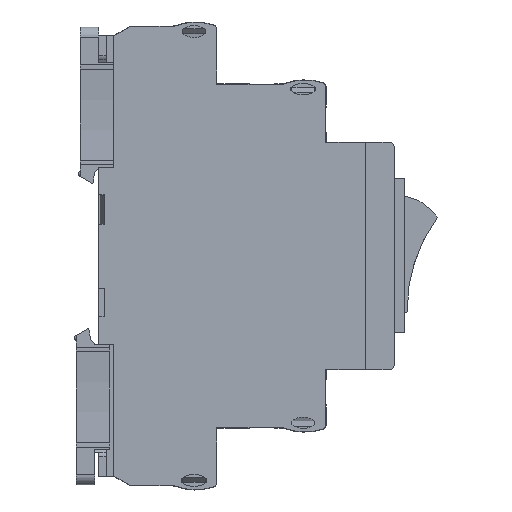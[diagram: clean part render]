
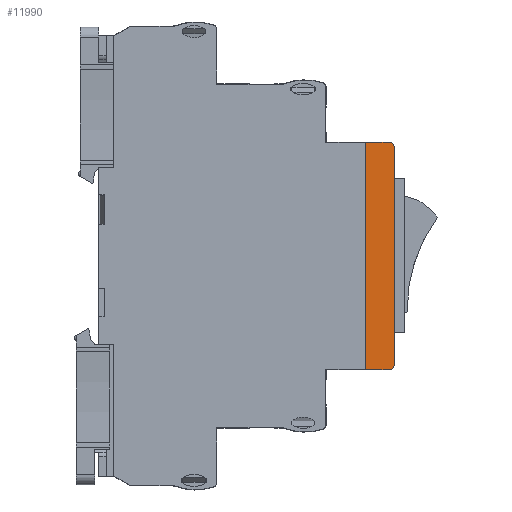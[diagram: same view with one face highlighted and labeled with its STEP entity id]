
A CAD part, front view. The second image highlights one B-rep face of the part: STEP entity #11990.
In plain terms, the highlighted planar face has unit normal (0, -1, 0) as drawn and (-1, 0, 0) by its records, which use the part's own axes.
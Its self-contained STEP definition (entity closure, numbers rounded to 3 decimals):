
#11990=ADVANCED_FACE('',(#79877),#79879,.T.);
#79877=FACE_BOUND('',#79878,.T.);
#79878=EDGE_LOOP('',(#132276,#132277,#132278,#132279,#132280,#132281));
#79879=PLANE('',#79880);
#79880=AXIS2_PLACEMENT_3D('',#79881,#79882,#79883);
#79881=CARTESIAN_POINT('',(-6.5,-22.6,1.5));
#79882=DIRECTION('',(-1.,0.,0.));
#79883=DIRECTION('',(0.,0.,1.));
#132276=ORIENTED_EDGE('',*,*,#179941,.T.);
#132277=ORIENTED_EDGE('',*,*,#179943,.T.);
#132278=ORIENTED_EDGE('',*,*,#179929,.F.);
#132279=ORIENTED_EDGE('',*,*,#179944,.T.);
#132280=ORIENTED_EDGE('',*,*,#179933,.F.);
#132281=ORIENTED_EDGE('',*,*,#179913,.T.);
#179913=EDGE_CURVE('',#205172,#205176,#205178,.T.);
#179929=EDGE_CURVE('',#205202,#205203,#205204,.T.);
#179933=EDGE_CURVE('',#205172,#205210,#205211,.T.);
#179941=EDGE_CURVE('',#205176,#205220,#205222,.T.);
#179943=EDGE_CURVE('',#205220,#205203,#205224,.T.);
#179944=EDGE_CURVE('',#205202,#205210,#205225,.T.);
#205172=VERTEX_POINT('',#248757);
#205176=VERTEX_POINT('',#248765);
#205178=LINE('',#248769,#248770);
#205202=VERTEX_POINT('',#248825);
#205203=VERTEX_POINT('',#248826);
#205204=LINE('',#248827,#248828);
#205210=VERTEX_POINT('',#248841);
#205211=LINE('',#248842,#248843);
#205220=VERTEX_POINT('',#248867);
#205222=LINE('',#248871,#248872);
#205224=CIRCLE('',#248877,1.);
#205225=CIRCLE('',#248881,1.);
#248757=CARTESIAN_POINT('',(-6.5,-22.6,5.75));
#248765=CARTESIAN_POINT('',(-6.5,22.6,5.75));
#248769=CARTESIAN_POINT('',(-6.5,-22.6,5.75));
#248770=VECTOR('',#248771,1.);
#248771=DIRECTION('',(0.,1.,0.));
#248825=CARTESIAN_POINT('',(-6.5,-21.6,0.));
#248826=CARTESIAN_POINT('',(-6.5,21.6,0.));
#248827=CARTESIAN_POINT('',(-6.5,-21.6,0.));
#248828=VECTOR('',#248829,1.);
#248829=DIRECTION('',(0.,1.,0.));
#248841=CARTESIAN_POINT('',(-6.5,-22.6,1.));
#248842=CARTESIAN_POINT('',(-6.5,-22.6,5.75));
#248843=VECTOR('',#248844,1.);
#248844=DIRECTION('',(0.,0.,-1.));
#248867=CARTESIAN_POINT('',(-6.5,22.6,1.));
#248871=CARTESIAN_POINT('',(-6.5,22.6,5.75));
#248872=VECTOR('',#248873,1.);
#248873=DIRECTION('',(0.,0.,-1.));
#248877=AXIS2_PLACEMENT_3D('',#248878,#248879,#248880);
#248878=CARTESIAN_POINT('',(-6.5,21.6,1.));
#248879=DIRECTION('',(-1.,0.,0.));
#248880=DIRECTION('',(0.,1.,0.));
#248881=AXIS2_PLACEMENT_3D('',#248882,#248883,#248884);
#248882=CARTESIAN_POINT('',(-6.5,-21.6,1.));
#248883=DIRECTION('',(-1.,0.,0.));
#248884=DIRECTION('',(0.,0.,-1.));
